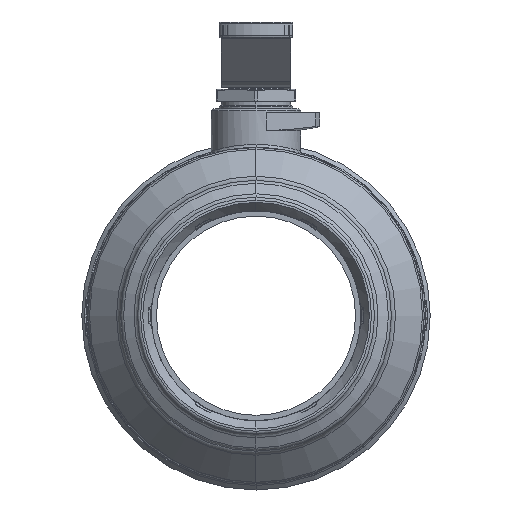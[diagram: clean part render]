
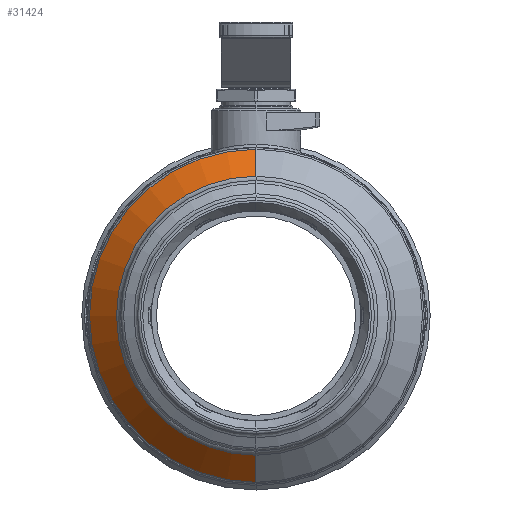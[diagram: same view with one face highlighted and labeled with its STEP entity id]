
A CAD part, left-side view. The second image highlights one B-rep face of the part: STEP entity #31424.
In plain terms, the highlighted conical face has half-angle 45 degrees and reference radius 3.025 mm.
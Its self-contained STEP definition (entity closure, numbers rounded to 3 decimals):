
#6358 = VERTEX_POINT('',#6359);
#6359 = CARTESIAN_POINT('',(110.188,0.,
    -47.621));
#6374 = TOROIDAL_SURFACE('',#6375,3.209,0.118);
#6375 = AXIS2_PLACEMENT_3D('',#6376,#6377,#6378);
#6376 = CARTESIAN_POINT('',(110.272,0.,
    -50.913));
#6377 = DIRECTION('',(-1.,0.,0.));
#6378 = DIRECTION('',(-0.,-0.006,-1.));
#6387 = VERTEX_POINT('',#6388);
#6388 = CARTESIAN_POINT('',(110.188,0.,
    -54.206));
#6403 = CONICAL_SURFACE('',#6404,3.025,0.785);
#6404 = AXIS2_PLACEMENT_3D('',#6405,#6406,#6407);
#6405 = CARTESIAN_POINT('',(109.921,0.,
    -50.913));
#6406 = DIRECTION('',(1.,0.,0.));
#6407 = DIRECTION('',(0.,0.,-1.));
#6442 = EDGE_CURVE('',#6387,#6358,#6443,.T.);
#6443 = SURFACE_CURVE('',#6444,(#6449,#6456),.PCURVE_S1.);
#6444 = CIRCLE('',#6445,3.292);
#6445 = AXIS2_PLACEMENT_3D('',#6446,#6447,#6448);
#6446 = CARTESIAN_POINT('',(110.188,0.,
    -50.913));
#6447 = DIRECTION('',(1.,0.,0.));
#6448 = DIRECTION('',(0.,0.,-1.));
#6449 = PCURVE('',#6374,#6450);
#6450 = DEFINITIONAL_REPRESENTATION('',(#6451),#6455);
#6451 = LINE('',#6452,#6453);
#6452 = CARTESIAN_POINT('',(6.278,0.785));
#6453 = VECTOR('',#6454,1.);
#6454 = DIRECTION('',(-1.,0.));
#6455 = ( GEOMETRIC_REPRESENTATION_CONTEXT(2) 
PARAMETRIC_REPRESENTATION_CONTEXT() REPRESENTATION_CONTEXT('2D SPACE',''
  ) );
#6456 = PCURVE('',#6457,#6462);
#6457 = CONICAL_SURFACE('',#6458,3.025,0.785);
#6458 = AXIS2_PLACEMENT_3D('',#6459,#6460,#6461);
#6459 = CARTESIAN_POINT('',(109.921,0.,
    -50.913));
#6460 = DIRECTION('',(1.,0.,0.));
#6461 = DIRECTION('',(0.,0.,-1.));
#6462 = DEFINITIONAL_REPRESENTATION('',(#6463),#6467);
#6463 = LINE('',#6464,#6465);
#6464 = CARTESIAN_POINT('',(0.,0.267));
#6465 = VECTOR('',#6466,1.);
#6466 = DIRECTION('',(1.,0.));
#6467 = ( GEOMETRIC_REPRESENTATION_CONTEXT(2) 
PARAMETRIC_REPRESENTATION_CONTEXT() REPRESENTATION_CONTEXT('2D SPACE',''
  ) );
#31309 = TOROIDAL_SURFACE('',#31310,2.953,0.276);
#31310 = AXIS2_PLACEMENT_3D('',#31311,#31312,#31313);
#31311 = CARTESIAN_POINT('',(109.459,0.,
    -50.913));
#31312 = DIRECTION('',(-1.,0.,0.));
#31313 = DIRECTION('',(0.,-0.007,1.));
#31355 = VERTEX_POINT('',#31356);
#31356 = CARTESIAN_POINT('',(109.654,0.,
    -53.671));
#31380 = VERTEX_POINT('',#31381);
#31381 = CARTESIAN_POINT('',(109.654,0.,
    -48.155));
#31403 = EDGE_CURVE('',#31380,#31355,#31404,.T.);
#31404 = SURFACE_CURVE('',#31405,(#31410,#31417),.PCURVE_S1.);
#31405 = CIRCLE('',#31406,2.758);
#31406 = AXIS2_PLACEMENT_3D('',#31407,#31408,#31409);
#31407 = CARTESIAN_POINT('',(109.654,0.,
    -50.913));
#31408 = DIRECTION('',(-1.,0.,0.));
#31409 = DIRECTION('',(0.,0.,1.));
#31410 = PCURVE('',#31309,#31411);
#31411 = DEFINITIONAL_REPRESENTATION('',(#31412),#31416);
#31412 = LINE('',#31413,#31414);
#31413 = CARTESIAN_POINT('',(0.007,3.927));
#31414 = VECTOR('',#31415,1.);
#31415 = DIRECTION('',(1.,0.));
#31416 = ( GEOMETRIC_REPRESENTATION_CONTEXT(2) 
PARAMETRIC_REPRESENTATION_CONTEXT() REPRESENTATION_CONTEXT('2D SPACE',''
  ) );
#31417 = PCURVE('',#6457,#31418);
#31418 = DEFINITIONAL_REPRESENTATION('',(#31419),#31423);
#31419 = LINE('',#31420,#31421);
#31420 = CARTESIAN_POINT('',(3.142,-0.267));
#31421 = VECTOR('',#31422,1.);
#31422 = DIRECTION('',(-1.,0.));
#31423 = ( GEOMETRIC_REPRESENTATION_CONTEXT(2) 
PARAMETRIC_REPRESENTATION_CONTEXT() REPRESENTATION_CONTEXT('2D SPACE',''
  ) );
#31424 = ADVANCED_FACE('',(#31425),#6457,.T.);
#31425 = FACE_BOUND('',#31426,.T.);
#31426 = EDGE_LOOP('',(#31427,#31492,#31493,#31514));
#31427 = ORIENTED_EDGE('',*,*,#31428,.F.);
#31428 = EDGE_CURVE('',#31355,#6387,#31429,.T.);
#31429 = SURFACE_CURVE('',#31430,(#31434,#31463),.PCURVE_S1.);
#31430 = LINE('',#31431,#31432);
#31431 = CARTESIAN_POINT('',(109.654,0.,
    -53.671));
#31432 = VECTOR('',#31433,1.);
#31433 = DIRECTION('',(0.707,0.,
    -0.707));
#31434 = PCURVE('',#6457,#31435);
#31435 = DEFINITIONAL_REPRESENTATION('',(#31436),#31462);
#31436 = B_SPLINE_CURVE_WITH_KNOTS('',3,(#31437,#31438,#31439,#31440,
    #31441,#31442,#31443,#31444,#31445,#31446,#31447,#31448,#31449,
    #31450,#31451,#31452,#31453,#31454,#31455,#31456,#31457,#31458,
    #31459,#31460,#31461),.UNSPECIFIED.,.F.,.F.,(4,1,1,1,1,1,1,1,1,1,1,1
    ,1,1,1,1,1,1,1,1,1,1,4),(0.,0.034,
    0.069,0.103,0.137,0.172,
    0.206,0.24,0.275,0.309,
    0.343,0.378,0.412,0.446,
    0.481,0.515,0.55,0.584,
    0.618,0.653,0.687,0.721,
    0.756),.UNSPECIFIED.);
#31437 = CARTESIAN_POINT('',(0.,-0.267));
#31438 = CARTESIAN_POINT('',(0.,-0.259));
#31439 = CARTESIAN_POINT('',(0.,-0.243));
#31440 = CARTESIAN_POINT('',(0.,-0.219));
#31441 = CARTESIAN_POINT('',(0.,-0.194));
#31442 = CARTESIAN_POINT('',(0.,-0.17));
#31443 = CARTESIAN_POINT('',(0.,-0.146));
#31444 = CARTESIAN_POINT('',(0.,-0.121));
#31445 = CARTESIAN_POINT('',(0.,-0.097));
#31446 = CARTESIAN_POINT('',(0.,-0.073));
#31447 = CARTESIAN_POINT('',(0.,-0.049));
#31448 = CARTESIAN_POINT('',(0.,-0.024));
#31449 = CARTESIAN_POINT('',(0.,0.));
#31450 = CARTESIAN_POINT('',(0.,0.024));
#31451 = CARTESIAN_POINT('',(0.,0.049));
#31452 = CARTESIAN_POINT('',(0.,0.073));
#31453 = CARTESIAN_POINT('',(0.,0.097));
#31454 = CARTESIAN_POINT('',(0.,0.121));
#31455 = CARTESIAN_POINT('',(0.,0.146));
#31456 = CARTESIAN_POINT('',(0.,0.17));
#31457 = CARTESIAN_POINT('',(0.,0.194));
#31458 = CARTESIAN_POINT('',(0.,0.219));
#31459 = CARTESIAN_POINT('',(0.,0.243));
#31460 = CARTESIAN_POINT('',(0.,0.259));
#31461 = CARTESIAN_POINT('',(0.,0.267));
#31462 = ( GEOMETRIC_REPRESENTATION_CONTEXT(2) 
PARAMETRIC_REPRESENTATION_CONTEXT() REPRESENTATION_CONTEXT('2D SPACE',''
  ) );
#31463 = PCURVE('',#6403,#31464);
#31464 = DEFINITIONAL_REPRESENTATION('',(#31465),#31491);
#31465 = B_SPLINE_CURVE_WITH_KNOTS('',3,(#31466,#31467,#31468,#31469,
    #31470,#31471,#31472,#31473,#31474,#31475,#31476,#31477,#31478,
    #31479,#31480,#31481,#31482,#31483,#31484,#31485,#31486,#31487,
    #31488,#31489,#31490),.UNSPECIFIED.,.F.,.F.,(4,1,1,1,1,1,1,1,1,1,1,1
    ,1,1,1,1,1,1,1,1,1,1,4),(0.,0.034,
    0.069,0.103,0.137,0.172,
    0.206,0.24,0.275,0.309,
    0.343,0.378,0.412,0.446,
    0.481,0.515,0.55,0.584,
    0.618,0.653,0.687,0.721,
    0.756),.UNSPECIFIED.);
#31466 = CARTESIAN_POINT('',(6.283,-0.267));
#31467 = CARTESIAN_POINT('',(6.283,-0.259));
#31468 = CARTESIAN_POINT('',(6.283,-0.243));
#31469 = CARTESIAN_POINT('',(6.283,-0.219));
#31470 = CARTESIAN_POINT('',(6.283,-0.194));
#31471 = CARTESIAN_POINT('',(6.283,-0.17));
#31472 = CARTESIAN_POINT('',(6.283,-0.146));
#31473 = CARTESIAN_POINT('',(6.283,-0.121));
#31474 = CARTESIAN_POINT('',(6.283,-0.097));
#31475 = CARTESIAN_POINT('',(6.283,-0.073));
#31476 = CARTESIAN_POINT('',(6.283,-0.049));
#31477 = CARTESIAN_POINT('',(6.283,-0.024));
#31478 = CARTESIAN_POINT('',(6.283,0.));
#31479 = CARTESIAN_POINT('',(6.283,0.024));
#31480 = CARTESIAN_POINT('',(6.283,0.049));
#31481 = CARTESIAN_POINT('',(6.283,0.073));
#31482 = CARTESIAN_POINT('',(6.283,0.097));
#31483 = CARTESIAN_POINT('',(6.283,0.121));
#31484 = CARTESIAN_POINT('',(6.283,0.146));
#31485 = CARTESIAN_POINT('',(6.283,0.17));
#31486 = CARTESIAN_POINT('',(6.283,0.194));
#31487 = CARTESIAN_POINT('',(6.283,0.219));
#31488 = CARTESIAN_POINT('',(6.283,0.243));
#31489 = CARTESIAN_POINT('',(6.283,0.259));
#31490 = CARTESIAN_POINT('',(6.283,0.267));
#31491 = ( GEOMETRIC_REPRESENTATION_CONTEXT(2) 
PARAMETRIC_REPRESENTATION_CONTEXT() REPRESENTATION_CONTEXT('2D SPACE',''
  ) );
#31492 = ORIENTED_EDGE('',*,*,#31403,.F.);
#31493 = ORIENTED_EDGE('',*,*,#31494,.T.);
#31494 = EDGE_CURVE('',#31380,#6358,#31495,.T.);
#31495 = SURFACE_CURVE('',#31496,(#31500,#31507),.PCURVE_S1.);
#31496 = LINE('',#31497,#31498);
#31497 = CARTESIAN_POINT('',(109.654,0.,
    -48.155));
#31498 = VECTOR('',#31499,1.);
#31499 = DIRECTION('',(0.707,0.,0.707)
  );
#31500 = PCURVE('',#6457,#31501);
#31501 = DEFINITIONAL_REPRESENTATION('',(#31502),#31506);
#31502 = LINE('',#31503,#31504);
#31503 = CARTESIAN_POINT('',(3.142,-0.267));
#31504 = VECTOR('',#31505,1.);
#31505 = DIRECTION('',(0.,1.));
#31506 = ( GEOMETRIC_REPRESENTATION_CONTEXT(2) 
PARAMETRIC_REPRESENTATION_CONTEXT() REPRESENTATION_CONTEXT('2D SPACE',''
  ) );
#31507 = PCURVE('',#6403,#31508);
#31508 = DEFINITIONAL_REPRESENTATION('',(#31509),#31513);
#31509 = LINE('',#31510,#31511);
#31510 = CARTESIAN_POINT('',(3.142,-0.267));
#31511 = VECTOR('',#31512,1.);
#31512 = DIRECTION('',(0.,1.));
#31513 = ( GEOMETRIC_REPRESENTATION_CONTEXT(2) 
PARAMETRIC_REPRESENTATION_CONTEXT() REPRESENTATION_CONTEXT('2D SPACE',''
  ) );
#31514 = ORIENTED_EDGE('',*,*,#6442,.F.);
